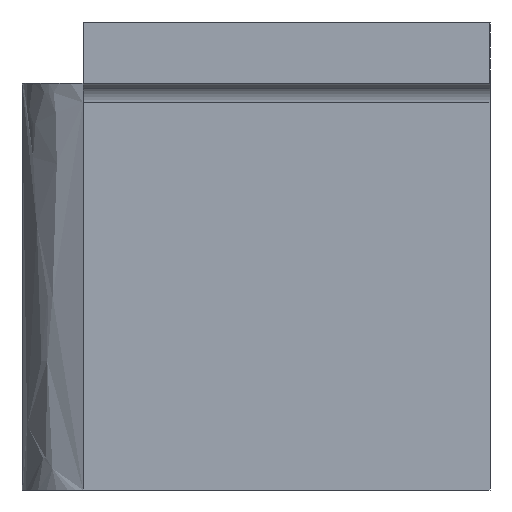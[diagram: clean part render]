
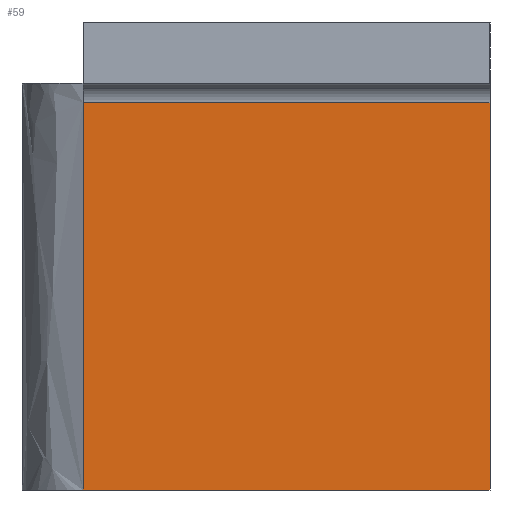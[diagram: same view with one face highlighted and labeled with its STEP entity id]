
A CAD part, left-side view. The second image highlights one B-rep face of the part: STEP entity #59.
In plain terms, the highlighted planar face has unit normal (-1, 0, 0).
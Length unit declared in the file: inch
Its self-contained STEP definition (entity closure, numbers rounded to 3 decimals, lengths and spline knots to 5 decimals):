
#59=ADVANCED_FACE('',(#134),#135,.T.);
#134=FACE_OUTER_BOUND('',#224,.T.);
#135=PLANE('',#225);
#224=EDGE_LOOP('',(#410,#411,#412,#413));
#225=AXIS2_PLACEMENT_3D('',#414,#415,#416);
#410=ORIENTED_EDGE('',*,*,#611,.F.);
#411=ORIENTED_EDGE('',*,*,#612,.T.);
#412=ORIENTED_EDGE('',*,*,#605,.T.);
#413=ORIENTED_EDGE('',*,*,#613,.F.);
#414=CARTESIAN_POINT('',(1.25794,0.625,0.0));
#415=DIRECTION('',(-1.0,0.0,0.0));
#416=DIRECTION('',(0.0,1.0,0.0));
#605=EDGE_CURVE('',#721,#719,#722,.T.);
#611=EDGE_CURVE('',#730,#731,#732,.T.);
#612=EDGE_CURVE('',#730,#721,#733,.T.);
#613=EDGE_CURVE('',#731,#719,#734,.T.);
#719=VERTEX_POINT('',#895);
#721=VERTEX_POINT('',#898);
#722=LINE('',#899,#900);
#730=VERTEX_POINT('',#916);
#731=VERTEX_POINT('',#917);
#732=LINE('',#918,#919);
#733=LINE('',#920,#921);
#734=LINE('',#922,#923);
#895=CARTESIAN_POINT('',(1.25794,0.0,-1.25));
#898=CARTESIAN_POINT('',(1.25794,1.25,-1.25));
#899=CARTESIAN_POINT('',(1.25794,0.0,-1.25));
#900=VECTOR('',#1086,1.0);
#916=CARTESIAN_POINT('',(1.25794,1.25,-0.06));
#917=CARTESIAN_POINT('',(1.25794,0.0,-0.06));
#918=CARTESIAN_POINT('',(1.25794,0.625,-0.06));
#919=VECTOR('',#1089,1.0);
#920=CARTESIAN_POINT('',(1.25794,1.25,0.0));
#921=VECTOR('',#1090,1.0);
#922=CARTESIAN_POINT('',(1.25794,0.0,0.0));
#923=VECTOR('',#1091,1.0);
#1086=DIRECTION('',(-0.0,-1.0,-0.0));
#1089=DIRECTION('',(0.0,-1.0,0.0));
#1090=DIRECTION('',(0.0,0.0,-1.0));
#1091=DIRECTION('',(0.0,0.0,-1.0));
